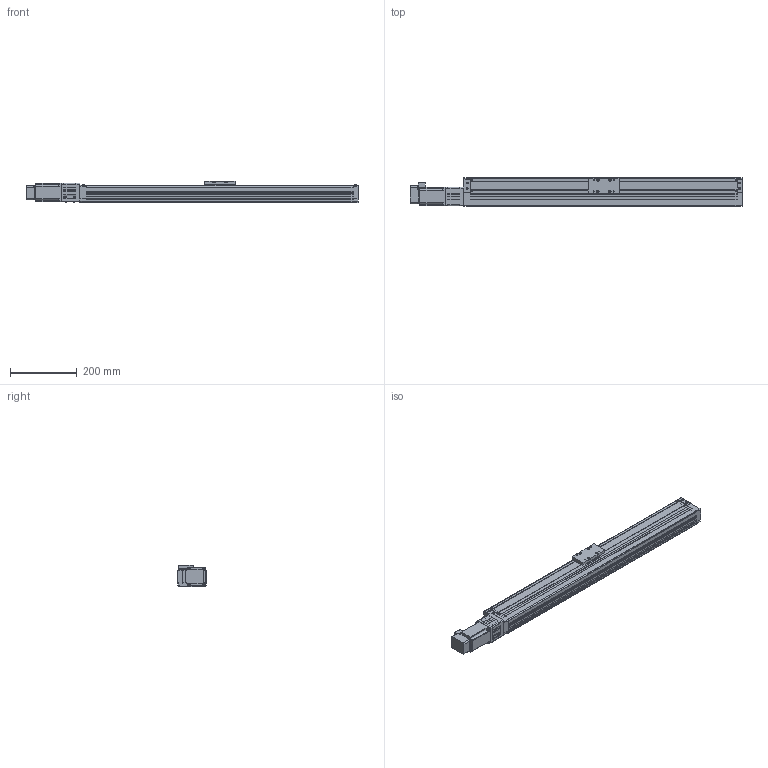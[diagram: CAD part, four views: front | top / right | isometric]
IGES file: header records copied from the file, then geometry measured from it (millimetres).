
Global section: file name: No Iges File Name specified; native system: AutoDesk Inventor R11.0; preprocessor: AutoDesk Inventor Iges Exporter R11.0; author: No Author specified; organization: No Organization specified; date: 20110901.160814; units: millimetre
Bounding box: 996.5 x 85 x 65 mm (x, y, z)
Surface area: 589910.4 mm2 (no closed solid volume)
Topology: 0 solids, 0 shells, 1067 faces, 6348 edges, 6320 vertices
Faces by surface type: bspline 1067
